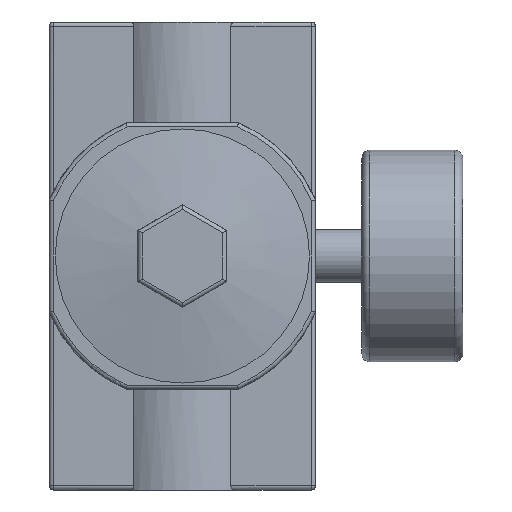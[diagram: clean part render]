
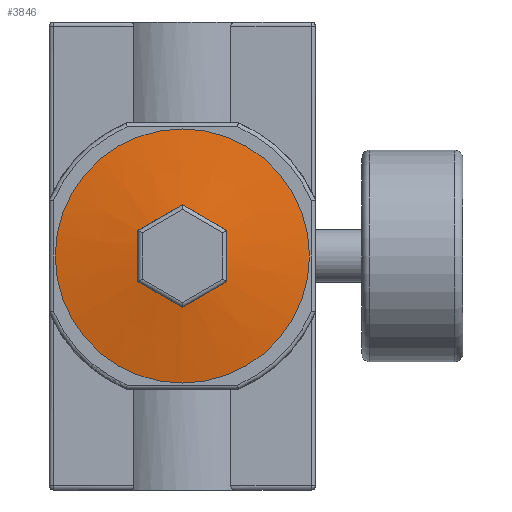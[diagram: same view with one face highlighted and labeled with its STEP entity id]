
A CAD part, front view. The second image highlights one B-rep face of the part: STEP entity #3846.
In plain terms, the highlighted conical face has half-angle 80.961 degrees and reference radius 31.5 mm.
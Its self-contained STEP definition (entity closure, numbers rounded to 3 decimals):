
#20=(
BOUNDED_CURVE()
B_SPLINE_CURVE(2,(#6952,#6953,#6954),.UNSPECIFIED.,.F.,.F.)
B_SPLINE_CURVE_WITH_KNOTS((3,3),(2.324,4.956),
 .UNSPECIFIED.)
CURVE()
GEOMETRIC_REPRESENTATION_ITEM()
RATIONAL_B_SPLINE_CURVE((2.058,2.377,2.058))
REPRESENTATION_ITEM('')
);
#21=(
BOUNDED_CURVE()
B_SPLINE_CURVE(2,(#6956,#6957,#6958),.UNSPECIFIED.,.F.,.F.)
B_SPLINE_CURVE_WITH_KNOTS((3,3),(2.324,4.956),
 .UNSPECIFIED.)
CURVE()
GEOMETRIC_REPRESENTATION_ITEM()
RATIONAL_B_SPLINE_CURVE((2.058,2.377,2.058))
REPRESENTATION_ITEM('')
);
#22=(
BOUNDED_CURVE()
B_SPLINE_CURVE(2,(#6960,#6961,#6962),.UNSPECIFIED.,.F.,.F.)
B_SPLINE_CURVE_WITH_KNOTS((3,3),(2.324,4.956),
 .UNSPECIFIED.)
CURVE()
GEOMETRIC_REPRESENTATION_ITEM()
RATIONAL_B_SPLINE_CURVE((2.058,2.377,2.058))
REPRESENTATION_ITEM('')
);
#23=(
BOUNDED_CURVE()
B_SPLINE_CURVE(2,(#6964,#6965,#6966),.UNSPECIFIED.,.F.,.F.)
B_SPLINE_CURVE_WITH_KNOTS((3,3),(2.324,4.956),
 .UNSPECIFIED.)
CURVE()
GEOMETRIC_REPRESENTATION_ITEM()
RATIONAL_B_SPLINE_CURVE((2.058,2.377,2.058))
REPRESENTATION_ITEM('')
);
#24=(
BOUNDED_CURVE()
B_SPLINE_CURVE(2,(#6968,#6969,#6970),.UNSPECIFIED.,.F.,.F.)
B_SPLINE_CURVE_WITH_KNOTS((3,3),(2.324,4.956),
 .UNSPECIFIED.)
CURVE()
GEOMETRIC_REPRESENTATION_ITEM()
RATIONAL_B_SPLINE_CURVE((2.058,2.377,2.058))
REPRESENTATION_ITEM('')
);
#25=(
BOUNDED_CURVE()
B_SPLINE_CURVE(2,(#6971,#6972,#6973),.UNSPECIFIED.,.F.,.F.)
B_SPLINE_CURVE_WITH_KNOTS((3,3),(2.324,4.956),
 .UNSPECIFIED.)
CURVE()
GEOMETRIC_REPRESENTATION_ITEM()
RATIONAL_B_SPLINE_CURVE((2.058,2.377,2.058))
REPRESENTATION_ITEM('')
);
#36=CONICAL_SURFACE('',#4284,31.5,1.413);
#402=LINE('',#6950,#723);
#723=VECTOR('',#5407,31.5);
#1030=FACE_OUTER_BOUND('',#1266,.T.);
#1266=EDGE_LOOP('',(#3450,#3451,#3452,#3453,#3454,#3455,#3456,#3457,#3458));
#1354=CIRCLE('',#4015,31.5);
#1600=VERTEX_POINT('',#5997);
#1820=VERTEX_POINT('',#6949);
#1821=VERTEX_POINT('',#6951);
#1822=VERTEX_POINT('',#6955);
#1823=VERTEX_POINT('',#6959);
#1824=VERTEX_POINT('',#6963);
#1825=VERTEX_POINT('',#6967);
#2015=EDGE_CURVE('',#1600,#1600,#1354,.F.);
#2366=EDGE_CURVE('',#1600,#1820,#402,.T.);
#2367=EDGE_CURVE('',#1821,#1820,#20,.T.);
#2368=EDGE_CURVE('',#1822,#1821,#21,.T.);
#2369=EDGE_CURVE('',#1823,#1822,#22,.T.);
#2370=EDGE_CURVE('',#1824,#1823,#23,.T.);
#2371=EDGE_CURVE('',#1825,#1824,#24,.T.);
#2372=EDGE_CURVE('',#1820,#1825,#25,.T.);
#3450=ORIENTED_EDGE('',*,*,#2015,.T.);
#3451=ORIENTED_EDGE('',*,*,#2366,.T.);
#3452=ORIENTED_EDGE('',*,*,#2367,.F.);
#3453=ORIENTED_EDGE('',*,*,#2368,.F.);
#3454=ORIENTED_EDGE('',*,*,#2369,.F.);
#3455=ORIENTED_EDGE('',*,*,#2370,.F.);
#3456=ORIENTED_EDGE('',*,*,#2371,.F.);
#3457=ORIENTED_EDGE('',*,*,#2372,.F.);
#3458=ORIENTED_EDGE('',*,*,#2366,.F.);
#3846=ADVANCED_FACE('',(#1030),#36,.T.);
#4015=AXIS2_PLACEMENT_3D('',#5998,#4656,#4657);
#4284=AXIS2_PLACEMENT_3D('',#6948,#5405,#5406);
#4656=DIRECTION('center_axis',(0.,1.,0.));
#4657=DIRECTION('ref_axis',(0.,0.,1.));
#5405=DIRECTION('center_axis',(0.,1.,0.));
#5406=DIRECTION('ref_axis',(0.,0.,1.));
#5407=DIRECTION('',(0.,-0.157,0.988));
#5997=CARTESIAN_POINT('',(33.,-17.,-89.5));
#5998=CARTESIAN_POINT('Origin',(33.,-17.,-58.));
#6948=CARTESIAN_POINT('Origin',(33.,-17.,-58.));
#6949=CARTESIAN_POINT('',(33.,-19.991,-70.702));
#6950=CARTESIAN_POINT('',(33.,-17.,-89.5));
#6951=CARTESIAN_POINT('',(22.,-19.991,-64.351));
#6952=CARTESIAN_POINT('Ctrl Pts',(22.,-19.991,-64.351));
#6953=CARTESIAN_POINT('Ctrl Pts',(27.5,-20.496,-67.526));
#6954=CARTESIAN_POINT('Ctrl Pts',(33.,-19.991,-70.702));
#6955=CARTESIAN_POINT('',(22.,-19.991,-51.649));
#6956=CARTESIAN_POINT('Ctrl Pts',(22.,-19.991,-51.649));
#6957=CARTESIAN_POINT('Ctrl Pts',(22.,-20.496,-58.));
#6958=CARTESIAN_POINT('Ctrl Pts',(22.,-19.991,-64.351));
#6959=CARTESIAN_POINT('',(33.,-19.991,-45.298));
#6960=CARTESIAN_POINT('Ctrl Pts',(33.,-19.991,-45.298));
#6961=CARTESIAN_POINT('Ctrl Pts',(27.5,-20.496,-48.474));
#6962=CARTESIAN_POINT('Ctrl Pts',(22.,-19.991,-51.649));
#6963=CARTESIAN_POINT('',(44.,-19.991,-51.649));
#6964=CARTESIAN_POINT('Ctrl Pts',(44.,-19.991,-51.649));
#6965=CARTESIAN_POINT('Ctrl Pts',(38.5,-20.496,-48.474));
#6966=CARTESIAN_POINT('Ctrl Pts',(33.,-19.991,-45.298));
#6967=CARTESIAN_POINT('',(44.,-19.991,-64.351));
#6968=CARTESIAN_POINT('Ctrl Pts',(44.,-19.991,-64.351));
#6969=CARTESIAN_POINT('Ctrl Pts',(44.,-20.496,-58.));
#6970=CARTESIAN_POINT('Ctrl Pts',(44.,-19.991,-51.649));
#6971=CARTESIAN_POINT('Ctrl Pts',(33.,-19.991,-70.702));
#6972=CARTESIAN_POINT('Ctrl Pts',(38.5,-20.496,-67.526));
#6973=CARTESIAN_POINT('Ctrl Pts',(44.,-19.991,-64.351));
